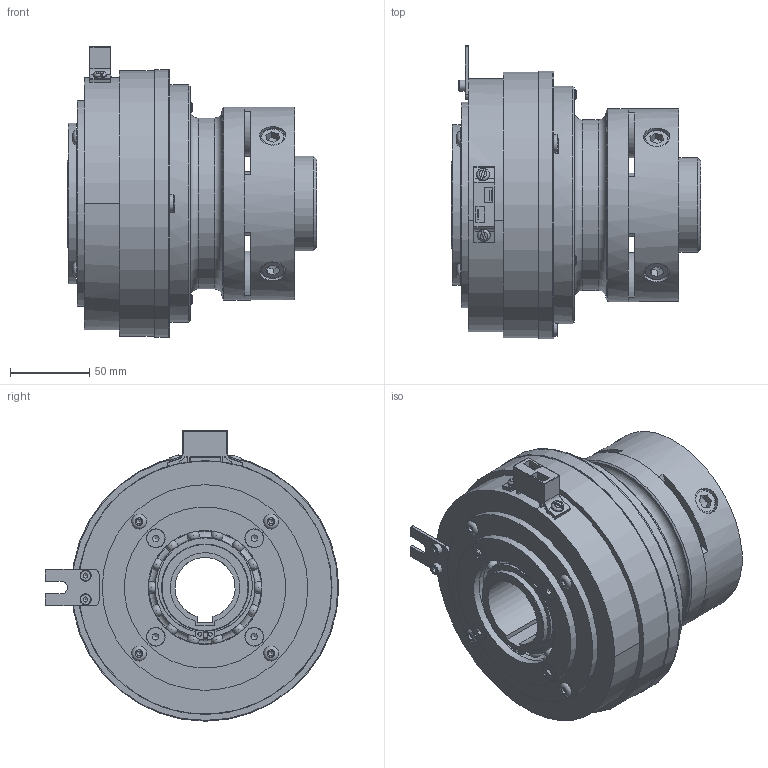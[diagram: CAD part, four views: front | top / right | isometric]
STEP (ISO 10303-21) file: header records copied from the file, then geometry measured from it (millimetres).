
FILE_DESCRIPTION(/* description */ (''),/* implementation_level */ '2;1');
FILE_NAME(/* name */ 'X:\INVENTOR\DISEGNI\08_Freni_Friz_Elettmag_Monodisco\08_26 EMSL_DF\EMSL_DF STEP\08_26_170_51 EMSL170_DF-GE_S@STEP.stp',/* time_stamp */ '2018-04-24T10:14:15+02:00',/* author */ ('stefano'),/* organization */ (''),/* preprocessor_version */ 'ST-DEVELOPER v17',/* originating_system */ 'Autodesk Inventor 2018',/* authorisation */ '');
FILE_SCHEMA (('AUTOMOTIVE_DESIGN { 1 0 10303 214 3 1 1 }'));
Length unit declared in the file: millimetre
Products named in the file (1): 08_26_170_51 EMSL170_DF-GE - Spina_Substitute_1
Bounding box: 158 x 185.5 x 183.59 mm (x, y, z)
Volume: 1441005 mm3; surface area: 366544 mm2
Topology: 2 solids, 2 shells, 900 faces, 2695 edges, 1802 vertices
Faces by surface type: plane 357, cylinder 307, torus 113, cone 75, sphere 48
Full cylindrical faces by diameter (mm): 1.5 x3, 2.5 x2, 4.917 x4, 6 x15, 6.5 x4, 7 x2, 8 x2, 8.376 x4, 9.5 x4, 10 x3, 10.5 x4, 11 x6, 11.34 x4, 12 x7, 16 x8, 16.5 x8, 52 x2, 55 x4, 60 x2, 63 x5, 66 x1, 72 x6, 74 x1, 80 x2, 90 x2, 92 x1, 93.5 x1, 99.5 x1, 100 x1, 102 x1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
Entity records: 34352 total; most frequent: CARTESIAN_POINT 9436, ORIENTED_EDGE 5182, DIRECTION 5167, EDGE_CURVE 2591, AXIS2_PLACEMENT_3D 2139, VERTEX_POINT 1805, CIRCLE 1238, EDGE_LOOP 1140
